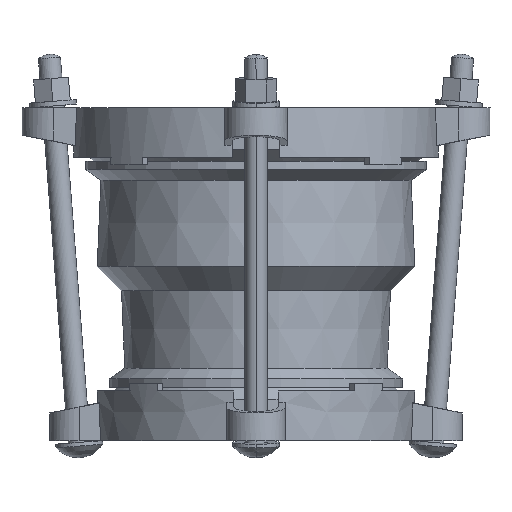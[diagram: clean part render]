
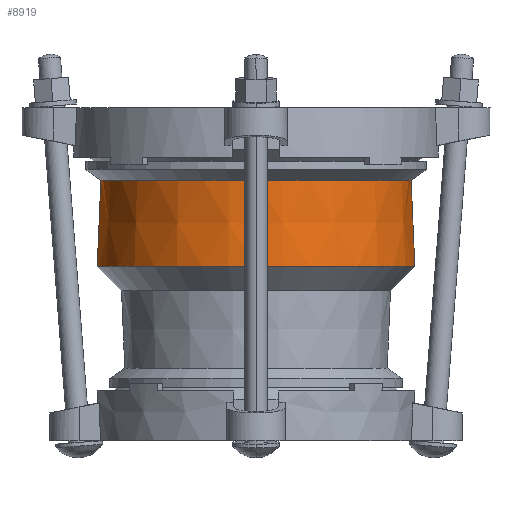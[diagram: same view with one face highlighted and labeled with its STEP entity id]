
A CAD part, left-side view. The second image highlights one B-rep face of the part: STEP entity #8919.
In plain terms, the highlighted conical face has half-angle 2.442 degrees and reference radius 85.351 mm.
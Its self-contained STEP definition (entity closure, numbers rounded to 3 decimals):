
#8552=DIRECTION('',(0.,-0.043,0.999));
#8553=VECTOR('',#8552,46.933);
#8554=CARTESIAN_POINT('',(0.,86.351,-86.272));
#8555=LINE('',#8554,#8553);
#8561=DIRECTION('',(0.,0.043,0.999));
#8562=VECTOR('',#8561,46.933);
#8563=CARTESIAN_POINT('',(0.,-86.351,
-86.272));
#8564=LINE('',#8563,#8562);
#8565=CARTESIAN_POINT('',(0.,0.,-86.272));
#8566=DIRECTION('',(0.,0.,1.));
#8567=DIRECTION('',(0.,1.,0.));
#8568=AXIS2_PLACEMENT_3D('',#8565,#8566,#8567);
#8570=CARTESIAN_POINT('',(0.,0.,-39.381));
#8571=DIRECTION('',(0.,0.,1.));
#8572=DIRECTION('',(0.,1.,0.));
#8573=AXIS2_PLACEMENT_3D('',#8570,#8571,#8572);
#8712=CARTESIAN_POINT('',(0.,86.351,-86.272));
#8713=VERTEX_POINT('',#8712);
#8714=CARTESIAN_POINT('',(0.,84.351,-39.381));
#8715=VERTEX_POINT('',#8714);
#8740=CARTESIAN_POINT('',(0.,-86.351,
-86.272));
#8741=VERTEX_POINT('',#8740);
#8742=CARTESIAN_POINT('',(0.,-84.351,
-39.381));
#8743=VERTEX_POINT('',#8742);
#8907=CARTESIAN_POINT('',(0.,0.,-62.826));
#8908=DIRECTION('',(0.,0.,-1.));
#8909=DIRECTION('',(0.,-1.,0.));
#8910=AXIS2_PLACEMENT_3D('',#8907,#8908,#8909);
#8911=CONICAL_SURFACE('',#8910,85.351,2.442);
#8912=ORIENTED_EDGE('',*,*,#8897,.T.);
#8914=ORIENTED_EDGE('',*,*,#8913,.T.);
#8915=ORIENTED_EDGE('',*,*,#8900,.F.);
#8916=ORIENTED_EDGE('',*,*,#8871,.F.);
#8917=EDGE_LOOP('',(#8912,#8914,#8915,#8916));
#8918=FACE_OUTER_BOUND('',#8917,.F.);
#8919=ADVANCED_FACE('',(#8918),#8911,.T.);
#8569=CIRCLE('',#8568,86.351);
#8574=CIRCLE('',#8573,84.351);
#8871=EDGE_CURVE('',#8713,#8741,#8569,.T.);
#8897=EDGE_CURVE('',#8713,#8715,#8555,.T.);
#8900=EDGE_CURVE('',#8741,#8743,#8564,.T.);
#8913=EDGE_CURVE('',#8715,#8743,#8574,.T.);
